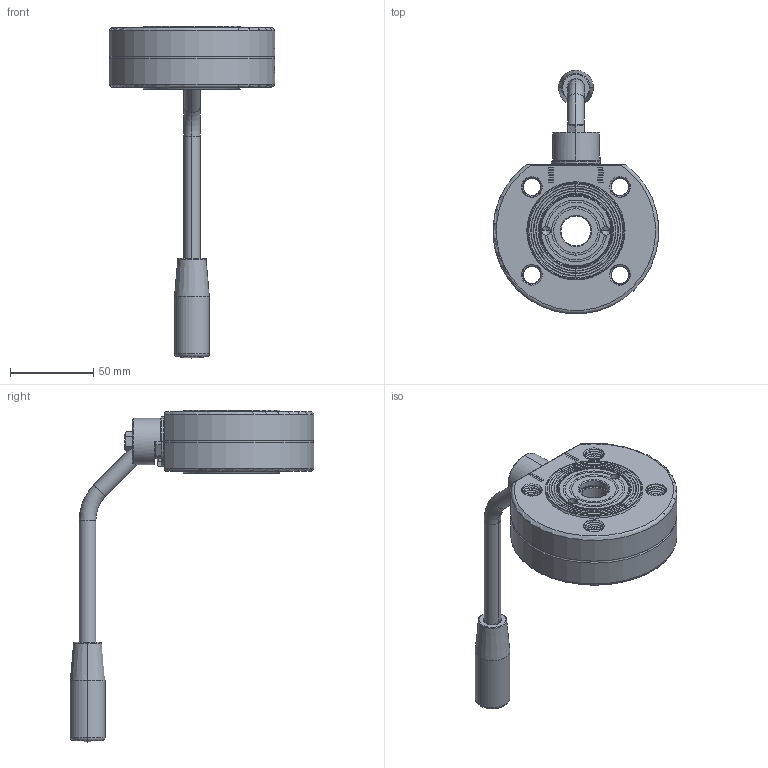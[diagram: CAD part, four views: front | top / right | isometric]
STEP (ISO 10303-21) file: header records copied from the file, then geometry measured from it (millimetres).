
FILE_DESCRIPTION((''),'2;1');
FILE_NAME('PARTE_VUOTA','2021-07-22T11:38:26',('alfio.taboni'),('CDM Tecnoconsulting'),'CREO PARAMETRIC BY PTC INC, 2020053','CREO PARAMETRIC BY PTC INC, 2020053','');
FILE_SCHEMA(('CONFIG_CONTROL_DESIGN','SHAPE_APPEARANCE_LAYERS_GROUPS'));
Products named in the file (1): PARTE_VUOTA
Bounding box: 99.89 x 146.81 x 200 mm (x, y, z)
Volume: 278581 mm3; surface area: 62930.6 mm2
Topology: 1 solids, 8 shells, 1200 faces, 3283 edges, 2101 vertices
Faces by surface type: cylinder 382, plane 347, bspline 171, cone 140, extrusion 91, torus 63, sphere 6
Entity records: 89160 total; most frequent: CARTESIAN_POINT 51429, ORIENTED_EDGE 6510, DIRECTION 4628, PRESENTATION_STYLE_ASSIGNMENT 3258, STYLED_ITEM 3256, CURVE_STYLE 3255, EDGE_CURVE 3255, VERTEX_POINT 2101
